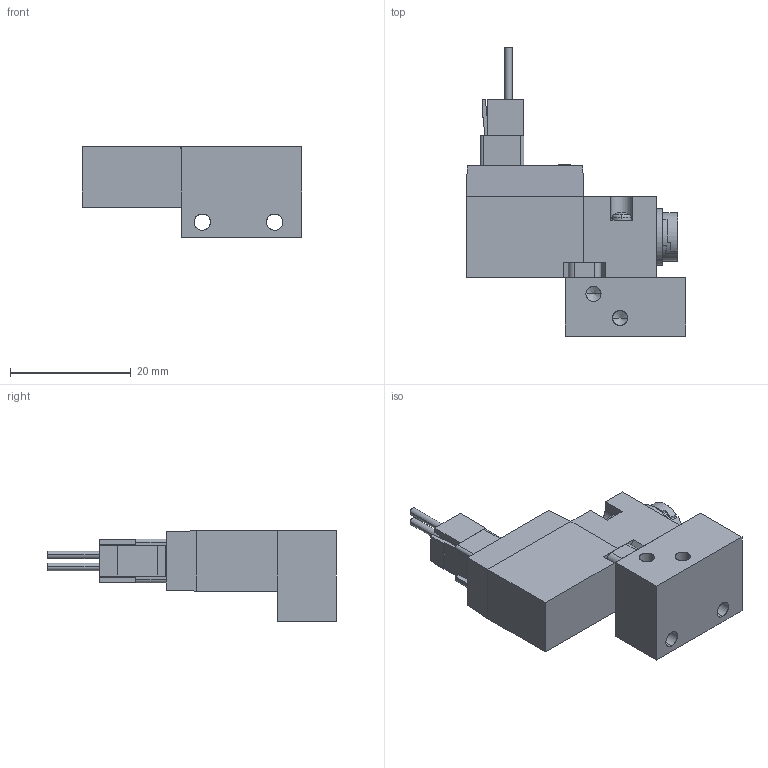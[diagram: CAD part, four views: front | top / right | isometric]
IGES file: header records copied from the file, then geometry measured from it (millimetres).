
Start section: SolidWorks IGES file using analytic representation for surfaces
Global section: file name: D:\Custom\3D繪製\ADEX\A00S\A00SO23-#P.IGS,1; native system: 5HSolidWorks 2014; preprocessor: SolidWorks 2014; author: Chieh_Lu; date: 150726.231907; units: millimetre
Bounding box: 36.4 x 47.81 x 15 mm (x, y, z)
Surface area: 5984.1 mm2 (no closed solid volume)
Topology: 0 solids, 0 shells, 349 faces, 2900 edges, 2890 vertices
Faces by surface type: bspline 254, revolution 95
